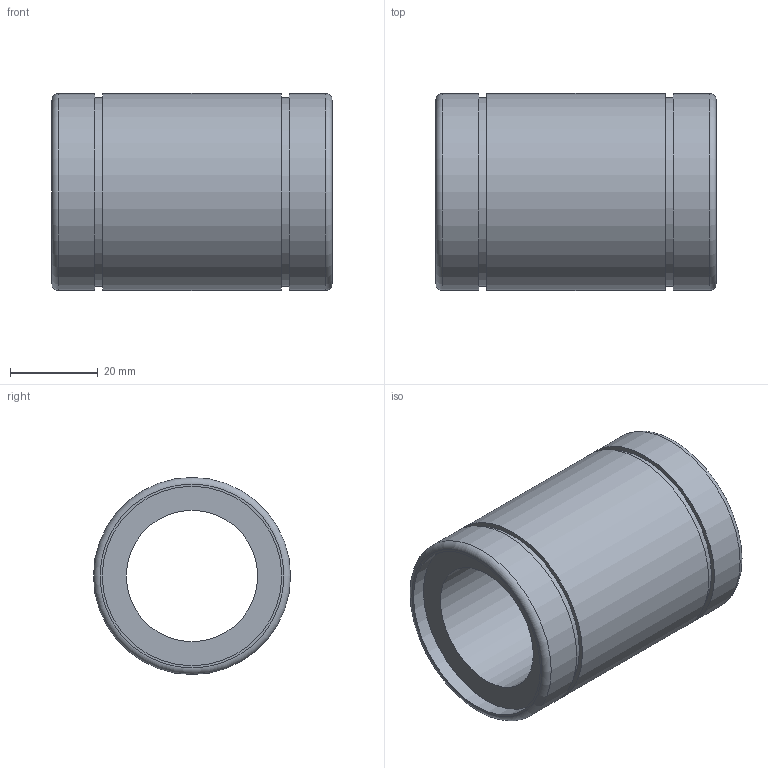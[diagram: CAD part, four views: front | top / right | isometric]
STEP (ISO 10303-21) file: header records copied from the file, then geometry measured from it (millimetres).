
FILE_DESCRIPTION( ( 'Unknown' ), '1' );
FILE_NAME( 'D:/累诀/己绕皋墨飘肺葱胶/11-04-06_档搁累己/01_府聪绢何教/LM/LM30.stp', 'Unknown', ( 'Unknown' ), ( 'Unknown' ), 'PSStep 11.0', 'Unknown', ' ' );
FILE_SCHEMA( ( 'AUTOMOTIVE_DESIGN { 1 0 10303 214 1 1 1 1 }' ) );
Length unit declared in the file: millimetre
Products named in the file (1): 1
Bounding box: 64 x 45 x 45 mm (x, y, z)
Volume: 51977 mm3; surface area: 17413.6 mm2
Topology: 1 solids, 1 shells, 18 faces, 29 edges, 19 vertices
Faces by surface type: plane 8, cylinder 8, torus 2
Full cylindrical faces by diameter (mm): 30 x1, 41 x2, 43 x2, 45 x3
Entity records: 528 total; most frequent: DIRECTION 74, CARTESIAN_POINT 55, AXIS2_PLACEMENT_3D 37, EDGE_LOOP 36, ORIENTED_EDGE 36, FACE_OUTER_BOUND 28, STYLED_ITEM 18, PRESENTATION_STYLE_ASSIGNMENT 18
